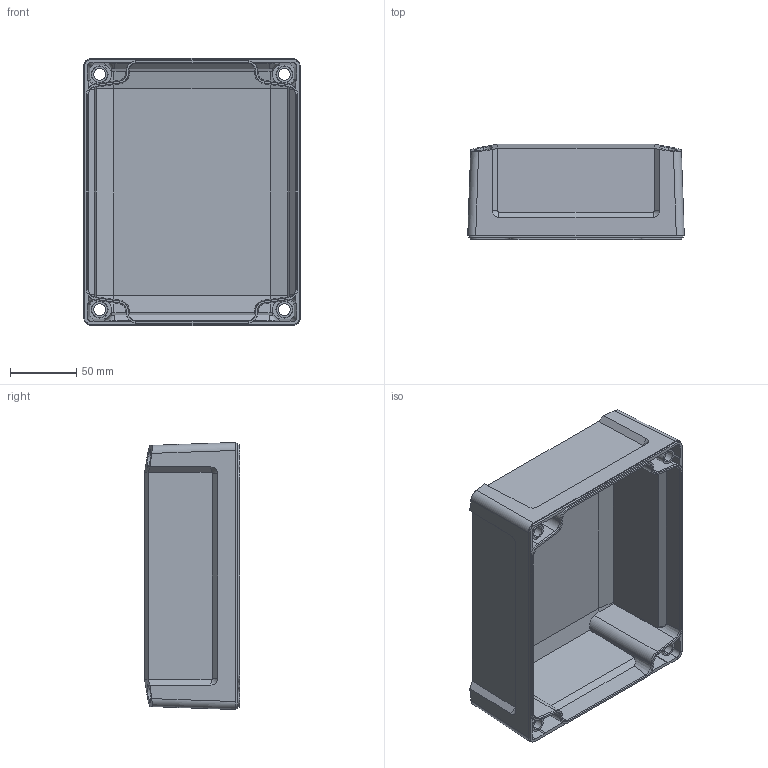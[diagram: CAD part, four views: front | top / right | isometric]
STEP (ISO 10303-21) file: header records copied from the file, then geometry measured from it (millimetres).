
FILE_DESCRIPTION (( 'STEP AP214' ), '1' );
FILE_NAME ('FIBOX TEMPO 2016 H Cover.STEP', '2017-06-21T08:25:12', ( '' ), ( '' ), 'SwSTEP 2.0', 'SolidWorks 2015', '' );
FILE_SCHEMA (( 'AUTOMOTIVE_DESIGN' ));
Length unit declared in the file: millimetre
Products named in the file (1): FIBOX TEMPO 2016 H Cover
Bounding box: 162.9 x 71.5 x 200.9 mm (x, y, z)
Volume: 275308.6 mm3; surface area: 185800.3 mm2
Topology: 1 solids, 1 shells, 265 faces, 728 edges, 476 vertices
Faces by surface type: plane 137, cone 84, bspline 24, cylinder 20
Entity records: 9869 total; most frequent: CARTESIAN_POINT 3547, ORIENTED_EDGE 1456, DIRECTION 1128, EDGE_CURVE 728, VERTEX_POINT 476, AXIS2_PLACEMENT_3D 378, LINE 372, VECTOR 372
